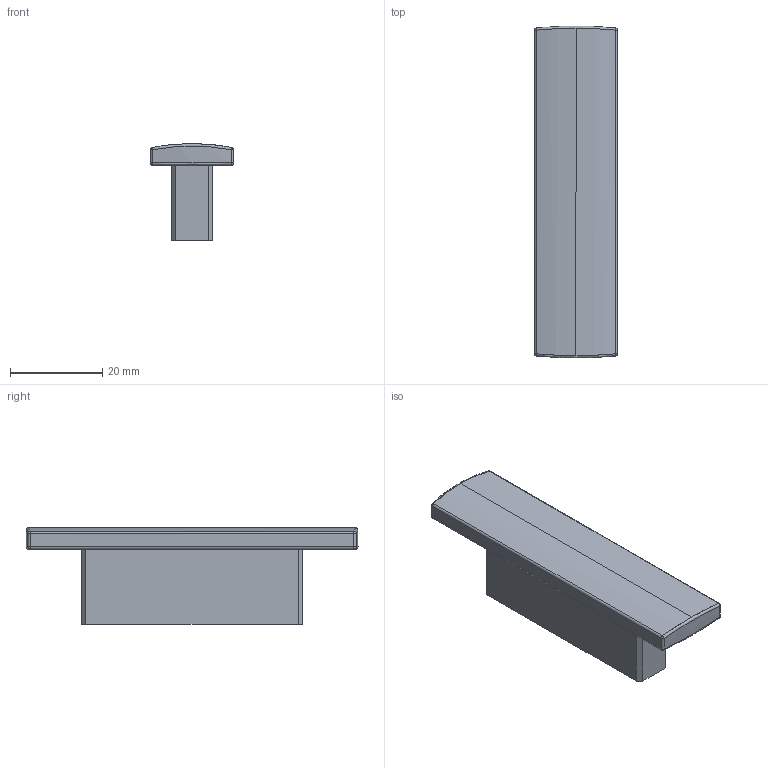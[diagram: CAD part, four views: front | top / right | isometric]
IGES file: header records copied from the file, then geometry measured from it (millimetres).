
Start section: C
Global section: file name: 8209-72.igs; native system: By Siemens PLM Incorporated; preprocessor: XPlus GENERIC/IGES 16.0.42; author: Author; organization: Title; date: 20231115.121237; units: millimetre
Bounding box: 18 x 72 x 21 mm (x, y, z)
Surface area: 7102.5 mm2 (no closed solid volume)
Topology: 0 solids, 0 shells, 55 faces, 246 edges, 242 vertices
Faces by surface type: bspline 55
